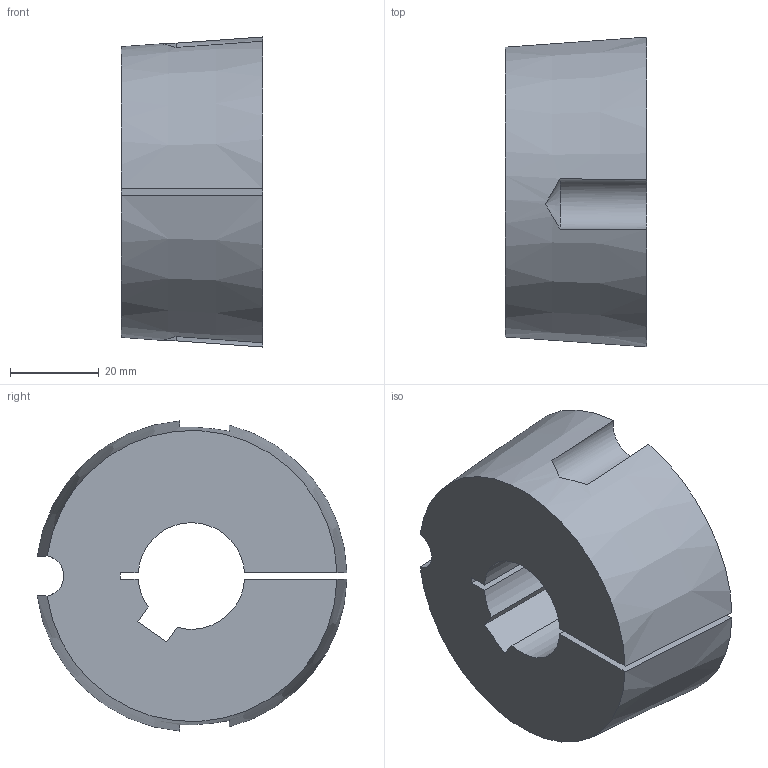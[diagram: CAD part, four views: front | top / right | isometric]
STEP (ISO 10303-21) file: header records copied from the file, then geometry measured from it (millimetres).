
FILE_DESCRIPTION( ( 'STEP AP203' ), '1' );
FILE_NAME( 'D:/export/antriebselemente/spannbuchsen_und_spannsaetze/taper-spannbuchsen_1008_bis_5050/taper-spannbuchsen_62250524Isometric_117.stp', '2018-12-11T11:11:12', ( '' ), ( '' ), ' ', 'PARTsolutions', ' ' );
FILE_SCHEMA( ( 'CONFIG_CONTROL_DESIGN' ) );
Length unit declared in the file: millimetre
Products named in the file (1): _taper-spannbuchsen_62250524
Bounding box: 31.8 x 69.72 x 69.81 mm (x, y, z)
Volume: 94657.6 mm3; surface area: 17508.2 mm2
Topology: 1 solids, 1 shells, 20 faces, 54 edges, 36 vertices
Faces by surface type: plane 10, cylinder 6, cone 4
Entity records: 752 total; most frequent: CARTESIAN_POINT 203, ORIENTED_EDGE 108, DIRECTION 104, EDGE_CURVE 54, AXIS2_PLACEMENT_3D 39, VERTEX_POINT 36, LINE 26, VECTOR 26
